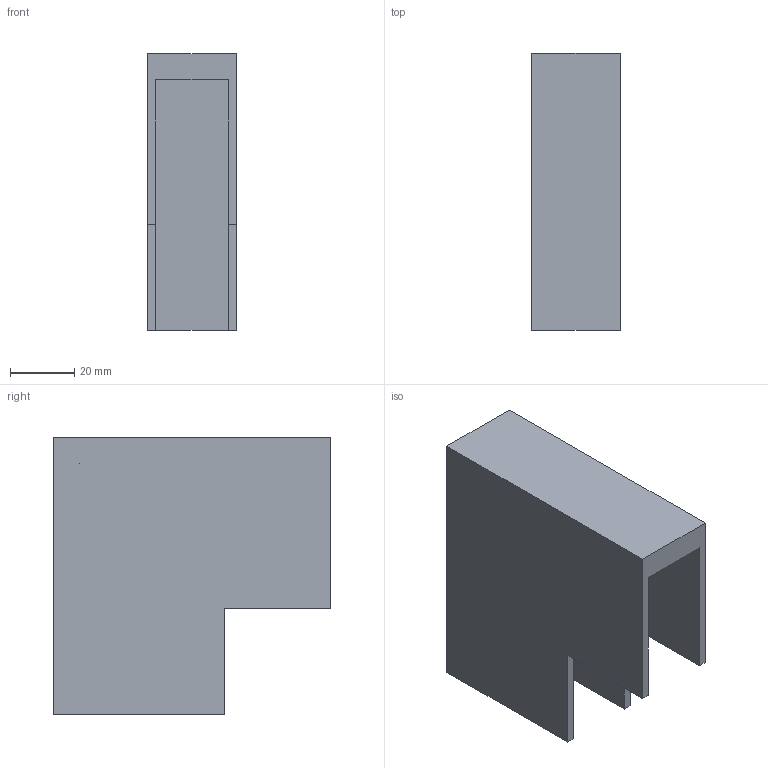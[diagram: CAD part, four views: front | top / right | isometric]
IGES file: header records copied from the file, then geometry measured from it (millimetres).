
Start section: SolidWorks IGES file using analytic representation for surfaces
Global section: file name: X:\PRODUKT\Modele 3D_WWW\_KOLEKCJE WWW\_LVM\LVM-INSIDE-CORNER-10165\LVM-INSIDE-CORNER-10165.IGS; native system: SolidWorks 2021; preprocessor: SolidWorks 2021; author: gabriela.tworek; date: 220510.113036; units: millimetre
Bounding box: 27.5 x 86 x 86 mm (x, y, z)
Surface area: 32001.7 mm2 (no closed solid volume)
Topology: 0 solids, 0 shells, 14 faces, 72 edges, 72 vertices
Faces by surface type: bspline 14
